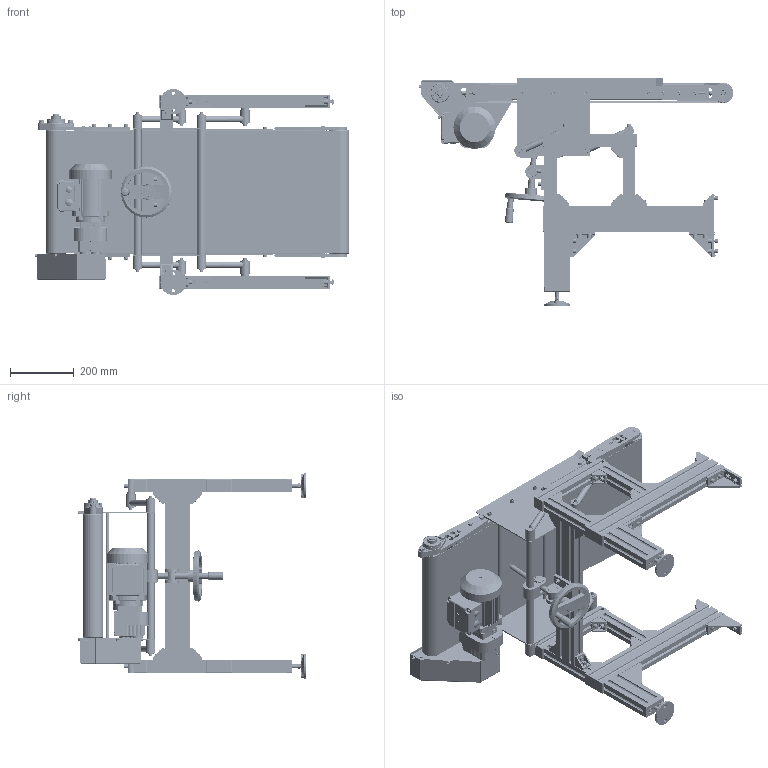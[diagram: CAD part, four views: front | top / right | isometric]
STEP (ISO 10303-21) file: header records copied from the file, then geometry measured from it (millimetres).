
FILE_DESCRIPTION(/* description */ (''),/* implementation_level */ '2;1');
FILE_NAME(/* name */ 'beltconveyor_a003_w400_l950.stp',/* time_stamp */ '2024-12-14T20:50:33+08:00',/* author */ (''),/* organization */ (''),/* preprocessor_version */ 'ST-DEVELOPER v16.7',/* originating_system */ 'SIEMENS PLM Software NX 12.0',/* authorisation */ '');
FILE_SCHEMA (('AUTOMOTIVE_DESIGN { 1 0 10303 214 3 1 1 1 }'));
Products named in the file (71): Угловой алюминиевый 
соединитель 40x80_D, паз 
10, A11_По умолчанию; Угловой алюминиевый 
соединитель 40x40, паз 
10, E42 SeeNSee_По умолчанию; Washer 11371n_gost_Шайба A.8 ГОСТ 
11371-78; Washer 6958_1_gost_Шайба A.5 ГОСТ 
6958-78; Мотор-редуктор 
RZ07DR63S4 29 об_мин, 0.12 кВт,
 вал 20х40, позиция 
М1, кл. коробка 
0°, каб. ввод X Sew Eurodrive
_По умолчанию; К.130.04.01.000_Профили основания_
По умолчанию_As Machi
ned_; SC GOST 11738_gost_Винт M5x10 ГОСТ 
11738-84; Washer 6402_3_gost_Шайба 5 30Х1
3 ГОСТ 6402-70; К.130.04.01.018_Винт_По 
умолчанию; К.130.04.01.200_Основание 
транспортёра_По 
умолчанию; К.130.04.01.009_Звёздочка_
01; socket countersunk head screw_din_DIN 7991 - M6 x 10 --- 3.7C; К.130.04.01.017_Ось винта_
По умолчанию; К.130.04.01.008_Щека_По 
умолчанию; К.130.04.01.005_Щека_По 
умолчанию; К.130.04.01.002_Щека_По 
умолчанию; К.130.04.01.019_Шайба_
По умолчанию; SC GOST 11738_gost_Винт M6x16 ГОСТ 
11738-84; К.130.04.01.014_Борт_По 
умолчанию; К.130.04.01.013_Кожух_
По умолчанию; К.130.04.01.001_Вал приводной_
По умолчанию; Опора регулируемая 
ф80 М12x55, A15 SeeNSee_По умолчанию; К.130.04.01.007_Кольцо_
По умолчанию; К.130.04.01.016_Ось-гайка_
По умолчанию; Washer 6402_3_gost_Шайба 6 ГОСТ 
6402-70; Лента транспортёрная_
По умолчанию; К.130.04.01.009_Звёздочка_
По умолчанию; К.130.04.01.021_Втулка_
По умолчанию; Цепь ПР12.7-18.2 ГОСТ 
13568-97 38 зв_По умолчанию; Заглушка торцевая 
40x40, A19 SeeNSee_По умолчанию; К.130.04.01.014_Борт_Mir
rorПо умолчанию; Подшипниковый 
узел UCFL204 SNR; К.130.04.01.006_Ось_По 
умолчанию; square_LeninSW_Шпонка 5x5x16 
ГОСТ 23360-78; Болт M8x35 DIN 933 (полная 
резьба); Маховик GN 924-160-K14-R-S
W Elesa+Ganter; К.130.04.01.000_Профили_По 
умолчанию_As Machined_; Адаптер 40Х80_D (Алюм)
 для опоры М12, D72
 SeeNSee_По умолчанию; SC GOST 11738_gost_Винт M6x10 ГОСТ 
11738-84; К.130.04.01.012-01_Стол_
По умолчанию ...
Assembly tree (323 placements, depth 3):
  beltconveyor_a003_w400_l950
    Washer 6958_1_gost_Шайба A.6 ГОСТ 
6958-78  x8
    К.130.04.01.015_Ось_По 
умолчанию  x4
    Угловой алюминиевый 
соединитель 40x40, паз 
10, E42 SeeNSee с крепежом_
По умолчанию  x20
      SC GOST 11738_gost_Винт M8x20 ГОСТ 
11738-84
      Т-гайка М8
, паз 10, D45 SeeNSee
      Washer 11371n_gost_Шайба A.8 ГОСТ 
11371-78
      Угловой алюминиевый 
соединитель 40x40, паз 
10, E42 SeeNSee_По умолчанию
    SC GOST 11738_gost_Винт M6x12 ГОСТ 
11738-84  x8
    К.130.04.01.300_Рычаг_По 
умолчанию_As Machined_  x4
    Washer 6402_3_gost_Шайба 6 30Х1
3 ГОСТ 6402-70  x15
    К.130.04.01.011_Шайба_
По умолчанию  x2
    SC GOST 11738_gost_Винт M8x20 ГОСТ 
11738-84  x16
    Washer 6402_3_gost_Шайба 8 30Х1
3 ГОСТ 6402-70  x40
    Hex Bolt 7798_gost_Болт M10x25 ГОСТ 
7798-70  x4
    Hex Bolt 7798_gost_Болт M8x22 ГОСТ 
7798-70  x6
    К.130.04.01.400_Кронштейн 
винта_По умолчанию_
As Machined_
    Washer 6402_3_gost_Шайба 10 30Х13 ГОСТ 
6402-70  x4
    К.130.04.01.004_Барабан натяжной_
По умолчанию
    socket countersunk head screw_din_DIN 7991 - M4 x 20 --- 15.6C  x12
    Circlips 13942B_gost_Кольцо 3
0A ГОСТ 13942-86  x2
    Т-гайка М8
, паз 10, D45 SeeNSee  x36
    Заглушка торцевая 
40x80, E48 SeeNSee_По умолчанию  x2
    К.130.04.01.003_Пластина_По 
умолчанию  x4
    SC GOST 11738_gost_Винт M8x16 ГОСТ 
11738-84  x6
    Т-гайка М4, ПАЗ 
10, C23_По умолчанию  x12
    К.130.04.01.012_Стол_По 
умолчанию
    Втулка скольжения 
PCM 161820 E SKF_По умолчанию  x16
    Втулка резьбовая 
М14 _ М8, D10 SeeNSee_По умолчанию  x4
    SC GOST 11738_gost_Винт M8x30 ГОСТ 
11738-84  x4
    Подшипник 80204 ГОСТ 
7242-81_По умолчанию  x2
    Hex Bolt 7798_gost_Болт M6x16 ГОСТ 
7798-70  x2
    socket head thin cap screw_din_DIN 7984 - M8 x 14 --- 10.25N  x8
    square_LeninSW_Шпонка 6x6x22 
ГОСТ 23360-78
    К.130.04.01.012-01_Стол_
По умолчанию
    SC GOST 11738_gost_Винт M6x10 ГОСТ 
11738-84  x3
    Адаптер 40Х80_D (Алюм)
 для опоры М12, D72
 SeeNSee_По умолчанию  x2
    К.130.04.01.000_Профили_По 
умолчанию_As Machined_
    Маховик GN 924-160-K14-R-S
W Elesa+Ganter
    Болт M8x35 DIN 933 (полная 
резьба)  x4
    square_LeninSW_Шпонка 5x5x16 
ГОСТ 23360-78
    К.130.04.01.006_Ось_По 
умолчанию
    Подшипниковый 
узел UCFL204 SNR  x2
    К.130.04.01.014_Борт_Mir
rorПо умолчанию
    Заглушка торцевая 
40x40, A19 SeeNSee_По умолчанию  x4
    Цепь ПР12.7-18.2 ГОСТ 
13568-97 38 зв_По умолчанию
    К.130.04.01.021_Втулка_
По умолчанию
    К.130.04.01.009_Звёздочка_
По умолчанию
    Лента транспортёрная_
По умолчанию
    Washer 6402_3_gost_Шайба 6 ГОСТ 
6402-70  x2
    К.130.04.01.016_Ось-гайка_
По умолчанию
    К.130.04.01.007_Кольцо_
По умолчанию  x2
    Опора регулируемая 
ф80 М12x55, A15 SeeNSee_По умолчанию  x2
    К.130.04.01.001_Вал приводной_
По умолчанию
    Угловой алюминиевый 
соединитель 40x80_D, паз 
10, A11 с крепежом_По 
умолчанию  x4
      Washer 11371n_gost_Шайба A.8 ГОСТ 
11371-78
      SC GOST 11738_gost_Винт M8x20 ГОСТ 
11738-84
      Т-гайка М8
, паз 10, D45 SeeNSee
      Угловой алюминиевый 
соединитель 40x80_D, паз 
10, A11_По умолчанию
    К.130.04.01.013_Кожух_
По умолчанию
Bounding box: 983.6 x 714.8 x 644.5 mm (x, y, z)
Volume: 14582374.9 mm3; surface area: 7992762.3 mm2
Topology: 539 solids, 555 shells, 18451 faces, 47826 edges, 31030 vertices
Faces by surface type: plane 11285, cylinder 4759, cone 1789, extrusion 246, torus 224, sphere 96, bspline 52
Entity records: 231277 total; most frequent: CARTESIAN_POINT 48173, ORIENTED_EDGE 36336, DIRECTION 35926, EDGE_CURVE 18168, AXIS2_PLACEMENT_3D 12146, VERTEX_POINT 11856, VECTOR 11634, LINE 11388
